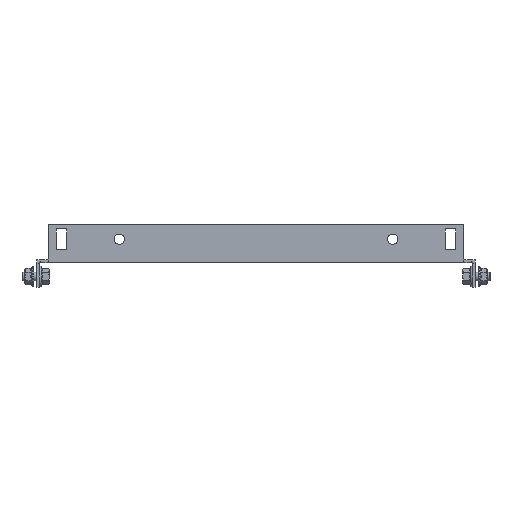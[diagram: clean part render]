
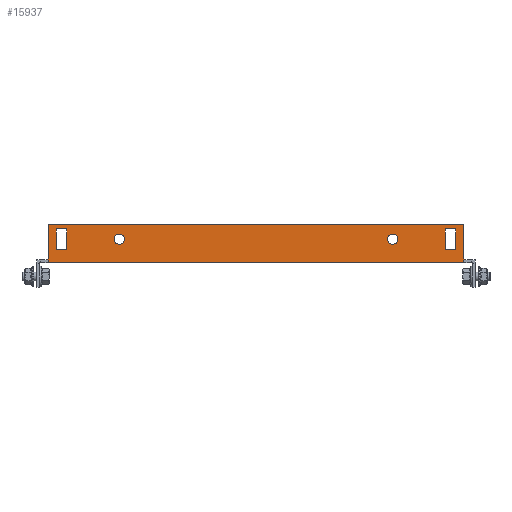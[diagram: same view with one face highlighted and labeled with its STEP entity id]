
A CAD part, front view. The second image highlights one B-rep face of the part: STEP entity #15937.
In plain terms, the highlighted planar face has unit normal (0, -1, 0).
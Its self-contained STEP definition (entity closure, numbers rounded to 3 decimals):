
#13094 = VERTEX_POINT('',#13095);
#13095 = CARTESIAN_POINT('',(142.,-134.5,0.));
#13101 = EDGE_CURVE('',#13102,#13094,#13104,.T.);
#13102 = VERTEX_POINT('',#13103);
#13103 = CARTESIAN_POINT('',(-142.,-134.5,0.));
#13104 = LINE('',#13105,#13106);
#13105 = CARTESIAN_POINT('',(-142.,-134.5,0.));
#13106 = VECTOR('',#13107,1.);
#13107 = DIRECTION('',(1.,-0.,-0.));
#15816 = VERTEX_POINT('',#15817);
#15817 = CARTESIAN_POINT('',(-142.,-134.5,2.6));
#15832 = EDGE_CURVE('',#15816,#13102,#15833,.T.);
#15833 = LINE('',#15834,#15835);
#15834 = CARTESIAN_POINT('',(-142.,-134.5,2.6));
#15835 = VECTOR('',#15836,1.);
#15836 = DIRECTION('',(0.,0.,-1.));
#15856 = VERTEX_POINT('',#15857);
#15857 = CARTESIAN_POINT('',(142.,-134.5,2.6));
#15863 = EDGE_CURVE('',#15856,#13094,#15864,.T.);
#15864 = LINE('',#15865,#15866);
#15865 = CARTESIAN_POINT('',(142.,-134.5,2.));
#15866 = VECTOR('',#15867,1.);
#15867 = DIRECTION('',(-0.,0.,-1.));
#15889 = VERTEX_POINT('',#15890);
#15890 = CARTESIAN_POINT('',(142.,-134.5,26.));
#15896 = EDGE_CURVE('',#15856,#15889,#15897,.T.);
#15897 = LINE('',#15898,#15899);
#15898 = CARTESIAN_POINT('',(142.,-134.5,26.));
#15899 = VECTOR('',#15900,1.);
#15900 = DIRECTION('',(-0.,0.,1.));
#15911 = EDGE_CURVE('',#15912,#15816,#15914,.T.);
#15912 = VERTEX_POINT('',#15913);
#15913 = CARTESIAN_POINT('',(-142.,-134.5,26.));
#15914 = LINE('',#15915,#15916);
#15915 = CARTESIAN_POINT('',(-142.,-134.5,2.));
#15916 = VECTOR('',#15917,1.);
#15917 = DIRECTION('',(-0.,0.,-1.));
#15937 = ADVANCED_FACE('',(#15938,#15972,#15983,#15994,#16028),#16041,
  .F.);
#15938 = FACE_BOUND('',#15939,.T.);
#15939 = EDGE_LOOP('',(#15940,#15950,#15958,#15966));
#15940 = ORIENTED_EDGE('',*,*,#15941,.F.);
#15941 = EDGE_CURVE('',#15942,#15944,#15946,.T.);
#15942 = VERTEX_POINT('',#15943);
#15943 = CARTESIAN_POINT('',(136.5,-134.5,9.));
#15944 = VERTEX_POINT('',#15945);
#15945 = CARTESIAN_POINT('',(136.5,-134.5,23.));
#15946 = LINE('',#15947,#15948);
#15947 = CARTESIAN_POINT('',(136.5,-134.5,23.));
#15948 = VECTOR('',#15949,1.);
#15949 = DIRECTION('',(-0.,0.,1.));
#15950 = ORIENTED_EDGE('',*,*,#15951,.F.);
#15951 = EDGE_CURVE('',#15952,#15942,#15954,.T.);
#15952 = VERTEX_POINT('',#15953);
#15953 = CARTESIAN_POINT('',(129.5,-134.5,9.));
#15954 = LINE('',#15955,#15956);
#15955 = CARTESIAN_POINT('',(136.5,-134.5,9.));
#15956 = VECTOR('',#15957,1.);
#15957 = DIRECTION('',(1.,-0.,-0.));
#15958 = ORIENTED_EDGE('',*,*,#15959,.F.);
#15959 = EDGE_CURVE('',#15960,#15952,#15962,.T.);
#15960 = VERTEX_POINT('',#15961);
#15961 = CARTESIAN_POINT('',(129.5,-134.5,23.));
#15962 = LINE('',#15963,#15964);
#15963 = CARTESIAN_POINT('',(129.5,-134.5,9.));
#15964 = VECTOR('',#15965,1.);
#15965 = DIRECTION('',(0.,0.,-1.));
#15966 = ORIENTED_EDGE('',*,*,#15967,.F.);
#15967 = EDGE_CURVE('',#15944,#15960,#15968,.T.);
#15968 = LINE('',#15969,#15970);
#15969 = CARTESIAN_POINT('',(129.5,-134.5,23.));
#15970 = VECTOR('',#15971,1.);
#15971 = DIRECTION('',(-1.,-0.,-0.));
#15972 = FACE_BOUND('',#15973,.T.);
#15973 = EDGE_LOOP('',(#15974));
#15974 = ORIENTED_EDGE('',*,*,#15975,.F.);
#15975 = EDGE_CURVE('',#15976,#15976,#15978,.T.);
#15976 = VERTEX_POINT('',#15977);
#15977 = CARTESIAN_POINT('',(93.5,-134.5,19.5));
#15978 = CIRCLE('',#15979,3.5);
#15979 = AXIS2_PLACEMENT_3D('',#15980,#15981,#15982);
#15980 = CARTESIAN_POINT('',(93.5,-134.5,16.));
#15981 = DIRECTION('',(0.,-1.,0.));
#15982 = DIRECTION('',(0.,0.,1.));
#15983 = FACE_BOUND('',#15984,.T.);
#15984 = EDGE_LOOP('',(#15985));
#15985 = ORIENTED_EDGE('',*,*,#15986,.F.);
#15986 = EDGE_CURVE('',#15987,#15987,#15989,.T.);
#15987 = VERTEX_POINT('',#15988);
#15988 = CARTESIAN_POINT('',(-93.5,-134.5,12.5));
#15989 = CIRCLE('',#15990,3.5);
#15990 = AXIS2_PLACEMENT_3D('',#15991,#15992,#15993);
#15991 = CARTESIAN_POINT('',(-93.5,-134.5,16.));
#15992 = DIRECTION('',(0.,-1.,0.));
#15993 = DIRECTION('',(0.,0.,-1.));
#15994 = FACE_BOUND('',#15995,.T.);
#15995 = EDGE_LOOP('',(#15996,#16006,#16014,#16022));
#15996 = ORIENTED_EDGE('',*,*,#15997,.F.);
#15997 = EDGE_CURVE('',#15998,#16000,#16002,.T.);
#15998 = VERTEX_POINT('',#15999);
#15999 = CARTESIAN_POINT('',(-136.5,-134.5,23.));
#16000 = VERTEX_POINT('',#16001);
#16001 = CARTESIAN_POINT('',(-136.5,-134.5,9.));
#16002 = LINE('',#16003,#16004);
#16003 = CARTESIAN_POINT('',(-136.5,-134.5,9.));
#16004 = VECTOR('',#16005,1.);
#16005 = DIRECTION('',(-0.,0.,-1.));
#16006 = ORIENTED_EDGE('',*,*,#16007,.F.);
#16007 = EDGE_CURVE('',#16008,#15998,#16010,.T.);
#16008 = VERTEX_POINT('',#16009);
#16009 = CARTESIAN_POINT('',(-129.5,-134.5,23.));
#16010 = LINE('',#16011,#16012);
#16011 = CARTESIAN_POINT('',(-136.5,-134.5,23.));
#16012 = VECTOR('',#16013,1.);
#16013 = DIRECTION('',(-1.,-0.,-0.));
#16014 = ORIENTED_EDGE('',*,*,#16015,.F.);
#16015 = EDGE_CURVE('',#16016,#16008,#16018,.T.);
#16016 = VERTEX_POINT('',#16017);
#16017 = CARTESIAN_POINT('',(-129.5,-134.5,9.));
#16018 = LINE('',#16019,#16020);
#16019 = CARTESIAN_POINT('',(-129.5,-134.5,23.));
#16020 = VECTOR('',#16021,1.);
#16021 = DIRECTION('',(-0.,0.,1.));
#16022 = ORIENTED_EDGE('',*,*,#16023,.F.);
#16023 = EDGE_CURVE('',#16000,#16016,#16024,.T.);
#16024 = LINE('',#16025,#16026);
#16025 = CARTESIAN_POINT('',(-129.5,-134.5,9.));
#16026 = VECTOR('',#16027,1.);
#16027 = DIRECTION('',(1.,-0.,-0.));
#16028 = FACE_BOUND('',#16029,.T.);
#16029 = EDGE_LOOP('',(#16030,#16031,#16032,#16033,#16034,#16035));
#16030 = ORIENTED_EDGE('',*,*,#15911,.T.);
#16031 = ORIENTED_EDGE('',*,*,#15832,.T.);
#16032 = ORIENTED_EDGE('',*,*,#13101,.T.);
#16033 = ORIENTED_EDGE('',*,*,#15863,.F.);
#16034 = ORIENTED_EDGE('',*,*,#15896,.T.);
#16035 = ORIENTED_EDGE('',*,*,#16036,.T.);
#16036 = EDGE_CURVE('',#15889,#15912,#16037,.T.);
#16037 = LINE('',#16038,#16039);
#16038 = CARTESIAN_POINT('',(-142.,-134.5,26.));
#16039 = VECTOR('',#16040,1.);
#16040 = DIRECTION('',(-1.,-0.,-0.));
#16041 = PLANE('',#16042);
#16042 = AXIS2_PLACEMENT_3D('',#16043,#16044,#16045);
#16043 = CARTESIAN_POINT('',(142.,-134.5,2.));
#16044 = DIRECTION('',(-0.,1.,0.));
#16045 = DIRECTION('',(0.,0.,1.));
